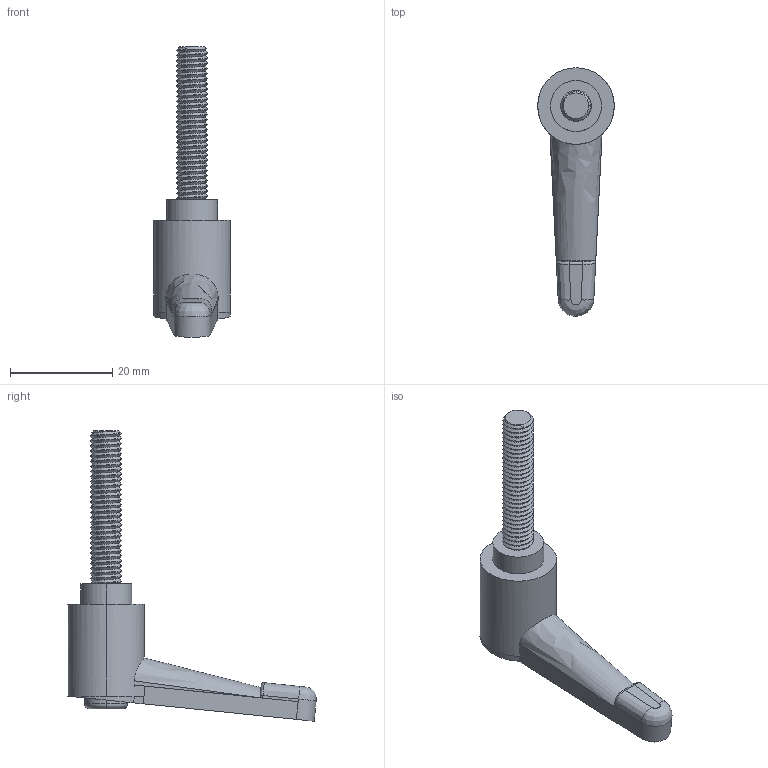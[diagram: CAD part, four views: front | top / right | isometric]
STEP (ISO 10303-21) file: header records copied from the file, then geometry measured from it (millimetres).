
FILE_DESCRIPTION (( 'STEP AP214' ), '1' );
FILE_NAME ('7141.STEP', '2015-04-16T11:42:16', ( 'user' ), ( '' ), 'SwSTEP 2.0', 'SolidWorks 2014', '' );
FILE_SCHEMA (( 'AUTOMOTIVE_DESIGN' ));
Length unit declared in the file: millimetre
Products named in the file (1): 7141
Bounding box: 15 x 48.66 x 56.91 mm (x, y, z)
Volume: 6234 mm3; surface area: 3999 mm2
Topology: 3 solids, 3 shells, 135 faces, 353 edges, 228 vertices
Faces by surface type: cylinder 78, plane 42, bspline 11, torus 2, cone 2
Entity records: 9188 total; most frequent: CARTESIAN_POINT 4833, ORIENTED_EDGE 706, DIRECTION 456, EDGE_CURVE 353, VERTEX_POINT 228, AXIS2_PLACEMENT_3D 155, VECTOR 146, LINE 146
